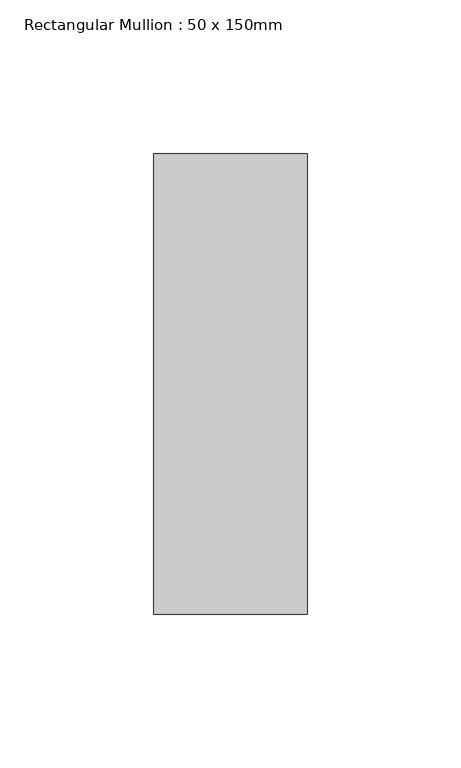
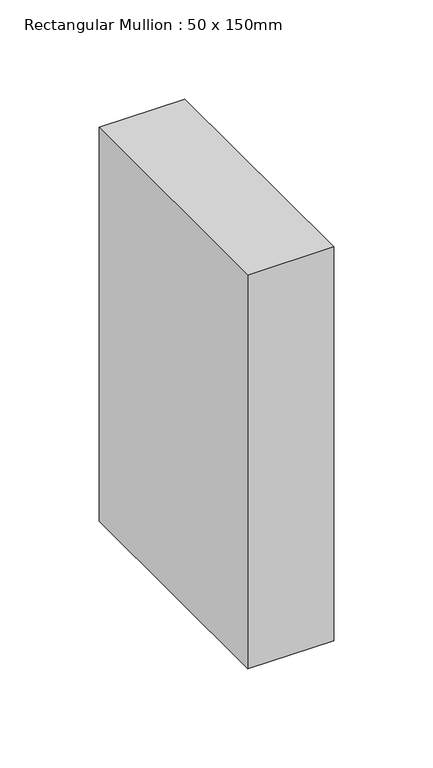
"""IFC4 building model written with IfcOpenShell, lengths in millimetres: member geometry, Rectangular Mullion : 50 x 150mm."""

from ifc_helpers import new_model, si_unit, frame, origin, place, context, project, spatial, polyline, outline, extrude, source, transform, mapped, element, save


def rectangular_mullion_50_x_150mm_7439e1e8(model_context):
    return source(origin(), model_context, "Body", "SweptSolid", [
        extrude(outline(polyline([(0.0, 75.0), (0.0, -75.0), (-50.0, -75.0), (-50.0, 75.0), (0.0, 75.0)])), frame((0.0, 0.0, -242.5821855), z_axis=(0.0, 0.0, 1.0), x_axis=(1.0, 0.0, 0.0)), (0.0, 0.0, 1.0), 242.5821855),
    ])


if __name__ == "__main__":
    model = new_model("IFC4")
    model_context = context("Model", 3, world=origin())
    ifc_project = project(units=[si_unit("LENGTHUNIT", "METRE", prefix="MILLI")], contexts=[model_context])
    site = spatial("IfcSite", under=ifc_project)
    building = spatial("IfcBuilding", under=site)
    placement = place(None, origin())
    rectangular_mullion_50_x_150mm_shape = rectangular_mullion_50_x_150mm_7439e1e8(model_context)
    element("IfcMember", 1, ObjectType="Rectangular Mullion : 50 x 150mm", at=placement, inside=building, context=model_context, shape_type="MappedRepresentation", body=[
        mapped(rectangular_mullion_50_x_150mm_shape, transform((0.0, 0.0, 0.0), x_axis=(1.0, 0.0, 0.0), y_axis=(0.0, 1.0, 0.0), z_axis=(0.0, 0.0, 1.0))),
    ])
    save(model, "model.ifc")
